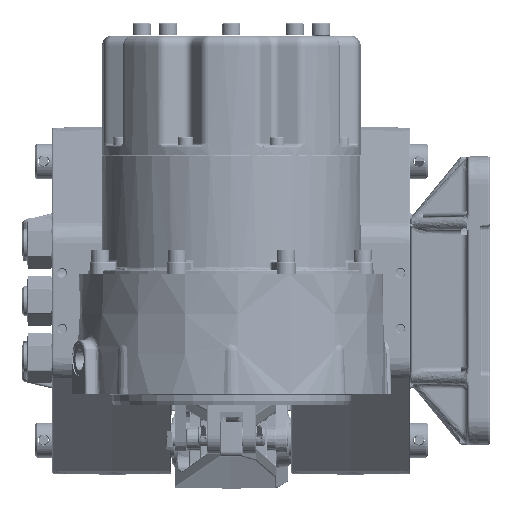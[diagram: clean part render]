
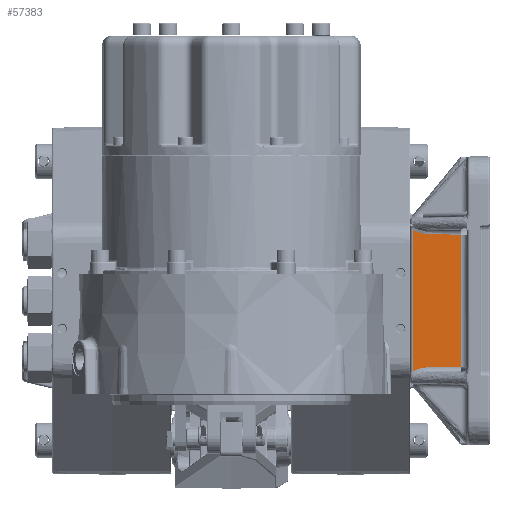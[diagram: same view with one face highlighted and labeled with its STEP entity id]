
A CAD part, left-side view. The second image highlights one B-rep face of the part: STEP entity #57383.
In plain terms, the highlighted planar face has unit normal (-1, 0.018, 0).
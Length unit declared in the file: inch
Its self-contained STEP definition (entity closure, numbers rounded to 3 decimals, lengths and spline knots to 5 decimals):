
#770 = LINE ( 'NONE', #199292, #83391 ) ;
#8701 = CARTESIAN_POINT ( 'NONE',  ( -5.47524, -4.83022, -1.67848 ) ) ;
#8738 = CARTESIAN_POINT ( 'NONE',  ( -5.47782, -4.97652, 1.67694 ) ) ;
#8763 = EDGE_CURVE ( 'NONE', #135052, #16987, #770, .T. ) ;
#10176 = CARTESIAN_POINT ( 'NONE',  ( -5.47718, -4.93957, 1.67759 ) ) ;
#10892 = CARTESIAN_POINT ( 'NONE',  ( -5.4734, -4.72281, 1.7135 ) ) ;
#11151 = VERTEX_POINT ( 'NONE', #25017 ) ;
#14197 = CARTESIAN_POINT ( 'NONE',  ( -5.47779, -4.97652, -1.6662 ) ) ;
#16987 = VERTEX_POINT ( 'NONE', #55689 ) ;
#19544 = ORIENTED_EDGE ( 'NONE', *, *, #180793, .T. ) ;
#23000 = CARTESIAN_POINT ( 'NONE',  ( -5.47045, -4.55641, -2.93263 ) ) ;
#25017 = CARTESIAN_POINT ( 'NONE',  ( -5.49167, -5.77148, -1.65233 ) ) ;
#25316 = CARTESIAN_POINT ( 'NONE',  ( -5.47715, -4.93957, -1.66685 ) ) ;
#27514 = CARTESIAN_POINT ( 'NONE',  ( -5.47188, -4.63627, 1.74622 ) ) ;
#28494 = LINE ( 'NONE', #23000, #155129 ) ;
#29901 = CARTESIAN_POINT ( 'NONE',  ( -5.4917, -5.77148, 1.66307 ) ) ;
#32287 = ORIENTED_EDGE ( 'NONE', *, *, #114135, .T. ) ;
#41282 = CARTESIAN_POINT ( 'NONE',  ( -5.47046, -4.55641, -1.78153 ) ) ;
#44209 = CARTESIAN_POINT ( 'NONE',  ( -5.47102, -4.58699, 1.77181 ) ) ;
#51786 = CARTESIAN_POINT ( 'NONE',  ( -5.49992, -6.245, -2.93263 ) ) ;
#53182 = EDGE_CURVE ( 'NONE', #55457, #58986, #28494, .T. ) ;
#54431 = FACE_OUTER_BOUND ( 'NONE', #105255, .T. ) ;
#55457 = VERTEX_POINT ( 'NONE', #162988 ) ;
#55689 = CARTESIAN_POINT ( 'NONE',  ( -5.47782, -4.97652, 1.67694 ) ) ;
#57383 = ADVANCED_FACE ( 'NONE', ( #54431 ), #133400, .T. ) ;
#57687 = DIRECTION ( 'NONE',  ( 0., 0., -1. ) ) ;
#58986 = VERTEX_POINT ( 'NONE', #113348 ) ;
#60798 = CARTESIAN_POINT ( 'NONE',  ( -5.47049, -4.55641, 1.79227 ) ) ;
#63601 = DIRECTION ( 'NONE',  ( -0.017, -1., 0.017 ) ) ;
#68331 = DIRECTION ( 'NONE',  ( -0.017, -1., 0. ) ) ;
#74425 = CARTESIAN_POINT ( 'NONE',  ( -5.47156, -4.6195, -1.74341 ) ) ;
#79638 = AXIS2_PLACEMENT_3D ( 'NONE', #51786, #167348, #68331 ) ;
#83391 = VECTOR ( 'NONE', #151755, 39.37008 ) ;
#84785 = ORIENTED_EDGE ( 'NONE', *, *, #183762, .T. ) ;
#85180 = VECTOR ( 'NONE', #152350, 39.37008 ) ;
#87651 = ORIENTED_EDGE ( 'NONE', *, *, #186195, .T. ) ;
#90306 = LINE ( 'NONE', #135751, #85180 ) ;
#90934 = CARTESIAN_POINT ( 'NONE',  ( -5.47274, -4.68736, -1.71406 ) ) ;
#93157 = CARTESIAN_POINT ( 'NONE',  ( -5.47654, -4.90291, 1.68015 ) ) ;
#105255 = EDGE_LOOP ( 'NONE', ( #32287, #199807, #19544, #87651, #84785, #209942 ) ) ;
#107648 = CARTESIAN_POINT ( 'NONE',  ( -5.47461, -4.79417, -1.685 ) ) ;
#108126 = VECTOR ( 'NONE', #63601, 39.37008 ) ;
#109848 = CARTESIAN_POINT ( 'NONE',  ( -5.47464, -4.79417, 1.69574 ) ) ;
#113348 = CARTESIAN_POINT ( 'NONE',  ( -5.47046, -4.55641, -1.78153 ) ) ;
#114135 = EDGE_CURVE ( 'NONE', #16987, #55457, #162674, .T. ) ;
#124210 = B_SPLINE_CURVE_WITH_KNOTS ( 'NONE', 3,
 ( #41282, #139556, #173448, #74425, #190004, #90934, #206572, #107648, #8701, #124322, #25316, #140980 ),
 .UNSPECIFIED., .F., .F.,
 ( 4, 2, 2, 2, 2, 4 ),
 ( 0.00217, 0.00358, 0.005, 0.00782, 0.01065, 0.01348 ),
 .UNSPECIFIED. ) ;
#124322 = CARTESIAN_POINT ( 'NONE',  ( -5.47651, -4.90291, -1.66941 ) ) ;
#126506 = CARTESIAN_POINT ( 'NONE',  ( -5.47278, -4.68736, 1.7248 ) ) ;
#133400 = PLANE ( 'NONE',  #79638 ) ;
#134481 = VERTEX_POINT ( 'NONE', #14197 ) ;
#135052 = VERTEX_POINT ( 'NONE', #29901 ) ;
#135751 = CARTESIAN_POINT ( 'NONE',  ( -5.4917, -5.77148, 1.78537 ) ) ;
#139556 = CARTESIAN_POINT ( 'NONE',  ( -5.47072, -4.57132, -1.77075 ) ) ;
#140980 = CARTESIAN_POINT ( 'NONE',  ( -5.47779, -4.97652, -1.6662 ) ) ;
#143137 = CARTESIAN_POINT ( 'NONE',  ( -5.47159, -4.6195, 1.75415 ) ) ;
#151755 = DIRECTION ( 'NONE',  ( 0.017, 1., 0.017 ) ) ;
#152350 = DIRECTION ( 'NONE',  ( 0., 0., 1. ) ) ;
#155129 = VECTOR ( 'NONE', #57687, 39.37008 ) ;
#159736 = CARTESIAN_POINT ( 'NONE',  ( -5.47075, -4.57132, 1.78149 ) ) ;
#162575 = CARTESIAN_POINT ( 'NONE',  ( -5.49163, -5.7693, -1.65237 ) ) ;
#162674 = B_SPLINE_CURVE_WITH_KNOTS ( 'NONE', 3,
 ( #8738, #10176, #93157, #208755, #109848, #10892, #126506, #27514, #143137, #44209, #159736, #60798 ),
 .UNSPECIFIED., .F., .F.,
 ( 4, 2, 2, 2, 2, 4 ),
 ( 0., 0.00279, 0.00558, 0.00837, 0.00977, 0.01116 ),
 .UNSPECIFIED. ) ;
#162988 = CARTESIAN_POINT ( 'NONE',  ( -5.47049, -4.55641, 1.79227 ) ) ;
#167348 = DIRECTION ( 'NONE',  ( -1., 0.017, 0. ) ) ;
#173448 = CARTESIAN_POINT ( 'NONE',  ( -5.47099, -4.58699, -1.76107 ) ) ;
#180793 = EDGE_CURVE ( 'NONE', #58986, #134481, #124210, .T. ) ;
#183762 = EDGE_CURVE ( 'NONE', #11151, #135052, #90306, .T. ) ;
#186195 = EDGE_CURVE ( 'NONE', #134481, #11151, #195930, .T. ) ;
#190004 = CARTESIAN_POINT ( 'NONE',  ( -5.47185, -4.63627, -1.73548 ) ) ;
#195930 = LINE ( 'NONE', #162575, #108126 ) ;
#199292 = CARTESIAN_POINT ( 'NONE',  ( -5.4741, -4.76303, 1.68067 ) ) ;
#199807 = ORIENTED_EDGE ( 'NONE', *, *, #53182, .T. ) ;
#206572 = CARTESIAN_POINT ( 'NONE',  ( -5.47336, -4.72281, -1.70276 ) ) ;
#208755 = CARTESIAN_POINT ( 'NONE',  ( -5.47527, -4.83022, 1.68923 ) ) ;
#209942 = ORIENTED_EDGE ( 'NONE', *, *, #8763, .T. ) ;
